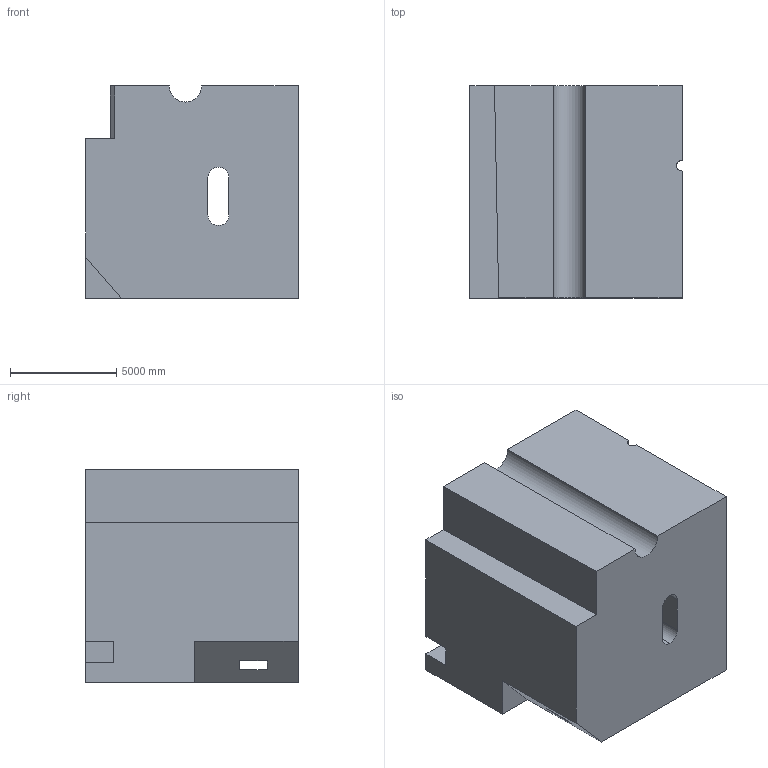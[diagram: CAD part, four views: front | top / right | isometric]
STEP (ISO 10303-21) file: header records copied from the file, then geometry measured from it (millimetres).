
FILE_DESCRIPTION (( 'STEP AP203' ), '1' );
FILE_NAME ('88.STEP', '2022-09-02T14:09:19', ( 'user' ), ( '' ), 'SwSTEP 2.0', 'SolidWorks 2021', '' );
FILE_SCHEMA (( 'CONFIG_CONTROL_DESIGN' ));
Length unit declared in the file: centimetre
Products named in the file (1): 88
Bounding box: 10000 x 10000 x 10000 mm (x, y, z)
Volume: 912813235972.8 mm3; surface area: 686490320.5 mm2
Topology: 1 solids, 1 shells, 35 faces, 102 edges, 68 vertices
Faces by surface type: plane 28, cylinder 7
Entity records: 1235 total; most frequent: CARTESIAN_POINT 206, ORIENTED_EDGE 204, DIRECTION 188, EDGE_CURVE 102, VECTOR 88, LINE 88, VERTEX_POINT 68, AXIS2_PLACEMENT_3D 50
